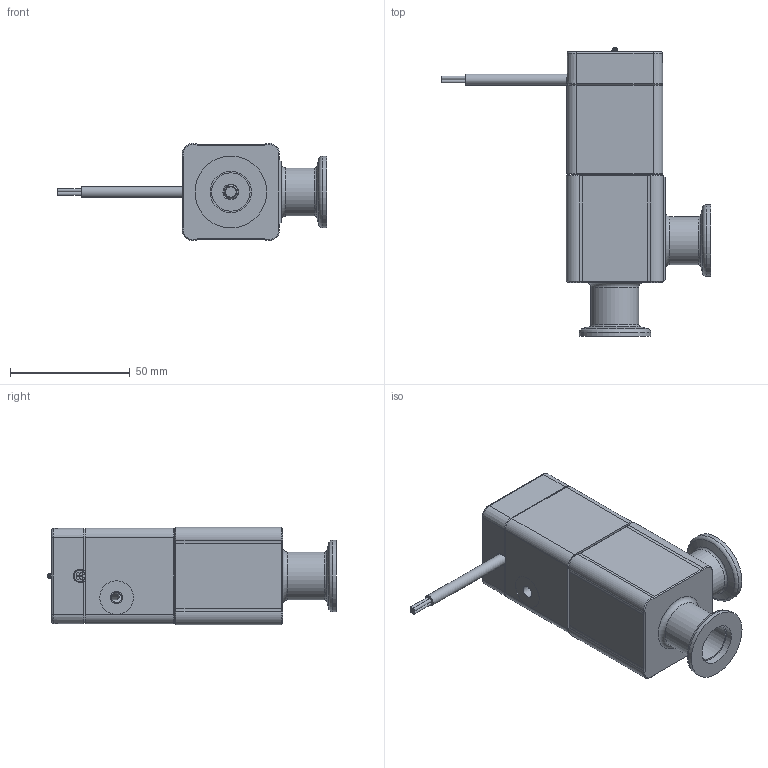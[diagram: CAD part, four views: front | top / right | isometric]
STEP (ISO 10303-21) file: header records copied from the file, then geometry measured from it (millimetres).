
FILE_DESCRIPTION(/* description */ (''),/* implementation_level */ '2;1');
FILE_NAME(/* name */ '1504975295_203.stp',/* time_stamp */ '2013-10-23T09:10:03+02:00',/* author */ (''),/* organization */ (''),/* preprocessor_version */ 'ST-DEVELOPER v11',/* originating_system */ 'SIEMENS PLM Software NX 7.5',/* authorisation */ '');
FILE_SCHEMA (('AP203_CONFIGURATION_CONTROLLED_3D_DESIGN_OF_MECHANICAL_PARTS_AND_ASSEMBLIES_MIM_LF'));
Length unit declared in the file: millimetre
Products named in the file (10): 236208.2; 233364; 239888_6.1; 236204_1.1; 242421.3; 243880.7; 244224.1; 244168.6; 402885_NX-ARRAGMNTLAGEMELDERZEICHNUNG; 323040
Assembly tree (14 placements, depth 3):
  323040
    244168.6
    244224.1  x4
    243880.7
    242421.3
    402885_NX-ARRAGMNTLAGEMELDERZEICHNUNG
      236204_1.1  x2
      239888_6.1
      233364
      236208.2  x2
Bounding box: 112.43 x 120.6 x 40.57 mm (x, y, z)
Volume: 99887.8 mm3; surface area: 53265.1 mm2
Topology: 21 solids, 21 shells, 626 faces, 1502 edges, 970 vertices
Faces by surface type: plane 343, cylinder 150, cone 92, bspline 29, torus 10, sphere 2
Full cylindrical faces by diameter (mm): 1.4 x8, 2 x7, 2.2 x4, 2.3 x1, 2.36 x4, 2.4 x4, 2.5 x7, 3 x15, 3.4 x4, 4 x2, 4.2 x1, 4.6 x1, 4.7 x3, 4.8 x1, 5 x2, 5.5 x4, 5.6 x2, 6 x4, 6.013 x2, 6.5 x4, 8.85 x1, 14 x1, 16 x2, 17 x1, 17.3 x2, 20 x3, 24.6 x1, 28 x1, 29.87 x1, 29.912 x1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
Entity records: 16808 total; most frequent: CARTESIAN_POINT 3447, DIRECTION 2421, ORIENTED_EDGE 2170, EDGE_CURVE 1085, AXIS2_PLACEMENT_3D 892, VERTEX_POINT 788, EDGE_LOOP 748, LINE 637
